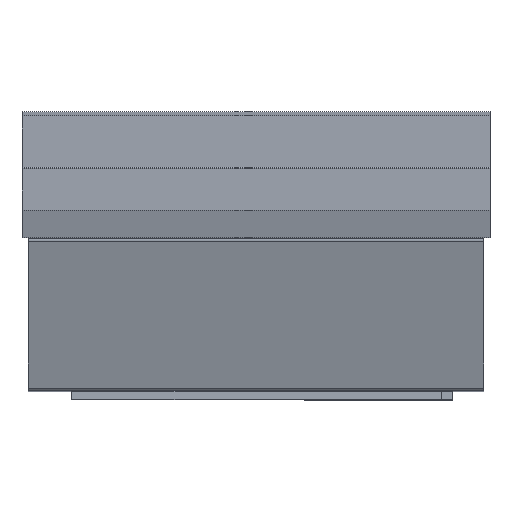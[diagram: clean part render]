
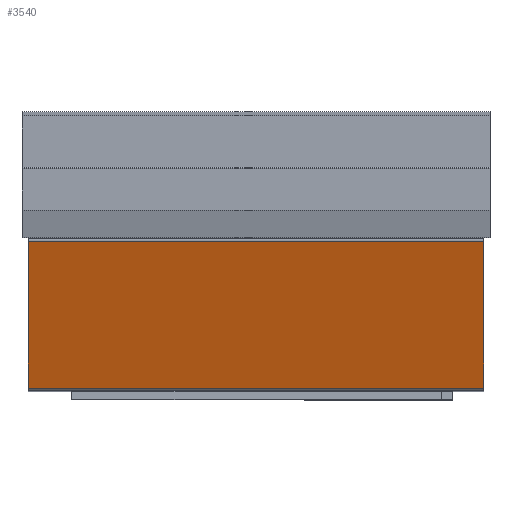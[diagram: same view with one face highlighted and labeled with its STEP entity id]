
A CAD part, top view. The second image highlights one B-rep face of the part: STEP entity #3540.
In plain terms, the highlighted planar face has unit normal (0, -0.309, 0.951).
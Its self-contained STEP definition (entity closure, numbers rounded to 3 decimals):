
#501=FACE_OUTER_BOUND('',#716,.T.);
#716=EDGE_LOOP('',(#2719,#2720,#2721,#2722));
#916=LINE('',#5718,#1188);
#927=LINE('',#5747,#1199);
#928=LINE('',#5750,#1200);
#929=LINE('',#5751,#1201);
#1188=VECTOR('',#4615,10.);
#1199=VECTOR('',#4640,10.);
#1200=VECTOR('',#4643,10.);
#1201=VECTOR('',#4644,10.);
#1569=VERTEX_POINT('',#5715);
#1570=VERTEX_POINT('',#5717);
#1581=VERTEX_POINT('',#5745);
#1582=VERTEX_POINT('',#5749);
#1987=EDGE_CURVE('',#1569,#1570,#916,.T.);
#2002=EDGE_CURVE('',#1569,#1581,#927,.T.);
#2003=EDGE_CURVE('',#1582,#1581,#928,.T.);
#2004=EDGE_CURVE('',#1570,#1582,#929,.T.);
#2719=ORIENTED_EDGE('',*,*,#2002,.T.);
#2720=ORIENTED_EDGE('',*,*,#2003,.F.);
#2721=ORIENTED_EDGE('',*,*,#2004,.F.);
#2722=ORIENTED_EDGE('',*,*,#1987,.F.);
#3382=PLANE('',#3911);
#3540=ADVANCED_FACE('',(#501),#3382,.T.);
#3911=AXIS2_PLACEMENT_3D('',#5748,#4641,#4642);
#4615=DIRECTION('',(0.,0.951,0.309));
#4640=DIRECTION('',(1.,0.,0.));
#4641=DIRECTION('center_axis',(0.,-0.309,0.951));
#4642=DIRECTION('ref_axis',(0.,-0.951,-0.309));
#4643=DIRECTION('',(0.,-0.951,-0.309));
#4644=DIRECTION('',(1.,0.,0.));
#5715=CARTESIAN_POINT('',(-93.,-24.518,330.391));
#5717=CARTESIAN_POINT('',(-93.,46.958,353.629));
#5718=CARTESIAN_POINT('',(-93.,46.958,353.629));
#5745=CARTESIAN_POINT('',(129.,-24.518,330.391));
#5747=CARTESIAN_POINT('',(0.,-24.518,330.391));
#5748=CARTESIAN_POINT('Origin',(0.,46.958,353.629));
#5749=CARTESIAN_POINT('',(129.,46.958,353.629));
#5750=CARTESIAN_POINT('',(129.,46.958,353.629));
#5751=CARTESIAN_POINT('',(0.,46.958,353.629));
